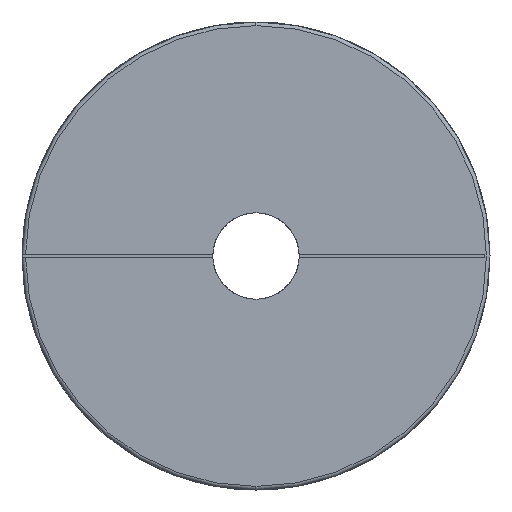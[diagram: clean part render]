
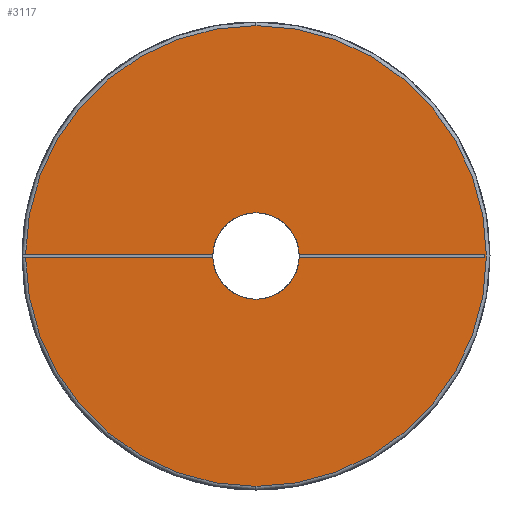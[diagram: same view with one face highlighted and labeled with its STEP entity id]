
A CAD part, left-side view. The second image highlights one B-rep face of the part: STEP entity #3117.
In plain terms, the highlighted planar face has unit normal (-1, 0, 0).
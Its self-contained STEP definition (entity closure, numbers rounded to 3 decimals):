
#325 = VERTEX_POINT ( 'NONE', #963 ) ;
#415 = ORIENTED_EDGE ( 'NONE', *, *, #520, .F. ) ;
#416 = ORIENTED_EDGE ( 'NONE', *, *, #3260, .F. ) ;
#429 = ORIENTED_EDGE ( 'NONE', *, *, #473, .F. ) ;
#431 = EDGE_CURVE ( 'NONE', #434, #3435, #1246, .T. ) ;
#432 = ORIENTED_EDGE ( 'NONE', *, *, #433, .F. ) ;
#433 = EDGE_CURVE ( 'NONE', #517, #434, #1242, .T. ) ;
#434 = VERTEX_POINT ( 'NONE', #1238 ) ;
#450 = EDGE_CURVE ( 'NONE', #451, #452, #1321, .T. ) ;
#451 = VERTEX_POINT ( 'NONE', #1316 ) ;
#452 = VERTEX_POINT ( 'NONE', #1315 ) ;
#473 = EDGE_CURVE ( 'NONE', #3119, #3219, #1404, .T. ) ;
#517 = VERTEX_POINT ( 'NONE', #1436 ) ;
#518 = VERTEX_POINT ( 'NONE', #1435 ) ;
#520 = EDGE_CURVE ( 'NONE', #518, #517, #1429, .T. ) ;
#963 = CARTESIAN_POINT ( 'NONE',  ( 0., 5.995, 0.25 ) ) ;
#1238 = CARTESIAN_POINT ( 'NONE',  ( 0., -31.7, -0.25 ) ) ;
#1239 = DIRECTION ( 'NONE',  ( 0., -1., 0. ) ) ;
#1240 = VECTOR ( 'NONE', #1239, 1000. ) ;
#1241 = CARTESIAN_POINT ( 'NONE',  ( 0., 32.499, -0.25 ) ) ;
#1242 = LINE ( 'NONE', #1241, #1240 ) ;
#1243 = DIRECTION ( 'NONE',  ( 0., 0., 1. ) ) ;
#1244 = VECTOR ( 'NONE', #1243, 1000. ) ;
#1245 = CARTESIAN_POINT ( 'NONE',  ( 0., -31.7, -0.25 ) ) ;
#1246 = LINE ( 'NONE', #1245, #1244 ) ;
#1315 = CARTESIAN_POINT ( 'NONE',  ( 0., 31.999, 0.25 ) ) ;
#1316 = CARTESIAN_POINT ( 'NONE',  ( 0., 0., 32. ) ) ;
#1317 = DIRECTION ( 'NONE',  ( 0., 0., -1. ) ) ;
#1318 = DIRECTION ( 'NONE',  ( -1., 0., 0. ) ) ;
#1319 = CARTESIAN_POINT ( 'NONE',  ( 0., 0., 0. ) ) ;
#1320 = AXIS2_PLACEMENT_3D ( 'NONE', #1319, #1318, #1317 ) ;
#1321 = CIRCLE ( 'NONE', #1320, 32. ) ;
#1401 = DIRECTION ( 'NONE',  ( 0., -1., 0. ) ) ;
#1402 = VECTOR ( 'NONE', #1401, 1000. ) ;
#1403 = CARTESIAN_POINT ( 'NONE',  ( 0., 32.499, -0.25 ) ) ;
#1404 = LINE ( 'NONE', #1403, #1402 ) ;
#1425 = DIRECTION ( 'NONE',  ( 0., 0., 1. ) ) ;
#1426 = DIRECTION ( 'NONE',  ( -1., 0., 0. ) ) ;
#1427 = CARTESIAN_POINT ( 'NONE',  ( 0., 0., 0. ) ) ;
#1428 = AXIS2_PLACEMENT_3D ( 'NONE', #1427, #1426, #1425 ) ;
#1429 = CIRCLE ( 'NONE', #1428, 6. ) ;
#1435 = CARTESIAN_POINT ( 'NONE',  ( 0., 0., -6. ) ) ;
#1436 = CARTESIAN_POINT ( 'NONE',  ( 0., -5.995, -0.25 ) ) ;
#1778 = DIRECTION ( 'NONE',  ( 0., 0., -1. ) ) ;
#1779 = DIRECTION ( 'NONE',  ( 1., 0., 0. ) ) ;
#1780 = CARTESIAN_POINT ( 'NONE',  ( 0., 0., 0. ) ) ;
#1781 = AXIS2_PLACEMENT_3D ( 'NONE', #1780, #1779, #1778 ) ;
#1782 = PLANE ( 'NONE',  #1781 ) ;
#1783 = CARTESIAN_POINT ( 'NONE',  ( 0., 31.999, -0.25 ) ) ;
#1784 = FACE_OUTER_BOUND ( 'NONE', #3116, .T. ) ;
#1785 = DIRECTION ( 'NONE',  ( 0., 0., -1. ) ) ;
#1786 = DIRECTION ( 'NONE',  ( -1., 0., 0. ) ) ;
#1787 = CARTESIAN_POINT ( 'NONE',  ( 0., 0., 0. ) ) ;
#1788 = AXIS2_PLACEMENT_3D ( 'NONE', #1787, #1786, #1785 ) ;
#1789 = CIRCLE ( 'NONE', #1788, 32. ) ;
#1853 = DIRECTION ( 'NONE',  ( 0., 1., 0. ) ) ;
#1854 = VECTOR ( 'NONE', #1853, 1000. ) ;
#1855 = CARTESIAN_POINT ( 'NONE',  ( 0., 32.499, 0.25 ) ) ;
#1860 = LINE ( 'NONE', #1855, #1854 ) ;
#2034 = CARTESIAN_POINT ( 'NONE',  ( 0., 5.995, -0.25 ) ) ;
#2088 = DIRECTION ( 'NONE',  ( 0., 0., 1. ) ) ;
#2089 = DIRECTION ( 'NONE',  ( -1., 0., 0. ) ) ;
#2090 = CARTESIAN_POINT ( 'NONE',  ( 0., 0., 0. ) ) ;
#2091 = AXIS2_PLACEMENT_3D ( 'NONE', #2090, #2089, #2088 ) ;
#2092 = CIRCLE ( 'NONE', #2091, 6. ) ;
#2357 = CARTESIAN_POINT ( 'NONE',  ( 0., 0., -32. ) ) ;
#2358 = DIRECTION ( 'NONE',  ( 0., 0., -1. ) ) ;
#2359 = DIRECTION ( 'NONE',  ( -1., 0., 0. ) ) ;
#2360 = AXIS2_PLACEMENT_3D ( 'NONE', #2367, #2359, #2358 ) ;
#2361 = CIRCLE ( 'NONE', #2360, 32. ) ;
#2367 = CARTESIAN_POINT ( 'NONE',  ( 0., 0., 0. ) ) ;
#2406 = CARTESIAN_POINT ( 'NONE',  ( 0., -31.7, 0.25 ) ) ;
#2407 = CARTESIAN_POINT ( 'NONE',  ( 0., -5.995, 0.25 ) ) ;
#2441 = DIRECTION ( 'NONE',  ( 0., 1., 0. ) ) ;
#2442 = VECTOR ( 'NONE', #2441, 1000. ) ;
#2443 = CARTESIAN_POINT ( 'NONE',  ( 0., 32.499, 0.25 ) ) ;
#2444 = LINE ( 'NONE', #2443, #2442 ) ;
#2466 = DIRECTION ( 'NONE',  ( 0., 0., 1. ) ) ;
#2467 = DIRECTION ( 'NONE',  ( -1., 0., 0. ) ) ;
#2468 = CARTESIAN_POINT ( 'NONE',  ( 0., 0., 0. ) ) ;
#2469 = AXIS2_PLACEMENT_3D ( 'NONE', #2468, #2467, #2466 ) ;
#2470 = CIRCLE ( 'NONE', #2469, 6. ) ;
#2679 = CARTESIAN_POINT ( 'NONE',  ( 0., 0., 6. ) ) ;
#2687 = DIRECTION ( 'NONE',  ( 0., 0., 1. ) ) ;
#2688 = DIRECTION ( 'NONE',  ( -1., 0., 0. ) ) ;
#2689 = CARTESIAN_POINT ( 'NONE',  ( 0., 0., 0. ) ) ;
#2690 = AXIS2_PLACEMENT_3D ( 'NONE', #2689, #2688, #2687 ) ;
#2691 = CIRCLE ( 'NONE', #2690, 6. ) ;
#3114 = ORIENTED_EDGE ( 'NONE', *, *, #3115, .T. ) ;
#3115 = EDGE_CURVE ( 'NONE', #3119, #3390, #1789, .T. ) ;
#3116 = EDGE_LOOP ( 'NONE', ( #3114, #3121, #3122, #3123, #3118, #3124, #3448, #3120, #432, #415, #416, #429 ) ) ;
#3117 = ADVANCED_FACE ( 'NONE', ( #1784 ), #1782, .F. ) ;
#3118 = ORIENTED_EDGE ( 'NONE', *, *, #3585, .F. ) ;
#3119 = VERTEX_POINT ( 'NONE', #1783 ) ;
#3120 = ORIENTED_EDGE ( 'NONE', *, *, #431, .F. ) ;
#3121 = ORIENTED_EDGE ( 'NONE', *, *, #3389, .T. ) ;
#3122 = ORIENTED_EDGE ( 'NONE', *, *, #450, .T. ) ;
#3123 = ORIENTED_EDGE ( 'NONE', *, *, #3152, .F. ) ;
#3124 = ORIENTED_EDGE ( 'NONE', *, *, #3455, .F. ) ;
#3152 = EDGE_CURVE ( 'NONE', #325, #452, #1860, .T. ) ;
#3219 = VERTEX_POINT ( 'NONE', #2034 ) ;
#3260 = EDGE_CURVE ( 'NONE', #3219, #518, #2092, .T. ) ;
#3389 = EDGE_CURVE ( 'NONE', #3390, #451, #2361, .T. ) ;
#3390 = VERTEX_POINT ( 'NONE', #2357 ) ;
#3434 = VERTEX_POINT ( 'NONE', #2407 ) ;
#3435 = VERTEX_POINT ( 'NONE', #2406 ) ;
#3446 = EDGE_CURVE ( 'NONE', #3435, #3434, #2444, .T. ) ;
#3448 = ORIENTED_EDGE ( 'NONE', *, *, #3446, .F. ) ;
#3455 = EDGE_CURVE ( 'NONE', #3434, #3588, #2470, .T. ) ;
#3585 = EDGE_CURVE ( 'NONE', #3588, #325, #2691, .T. ) ;
#3588 = VERTEX_POINT ( 'NONE', #2679 ) ;
